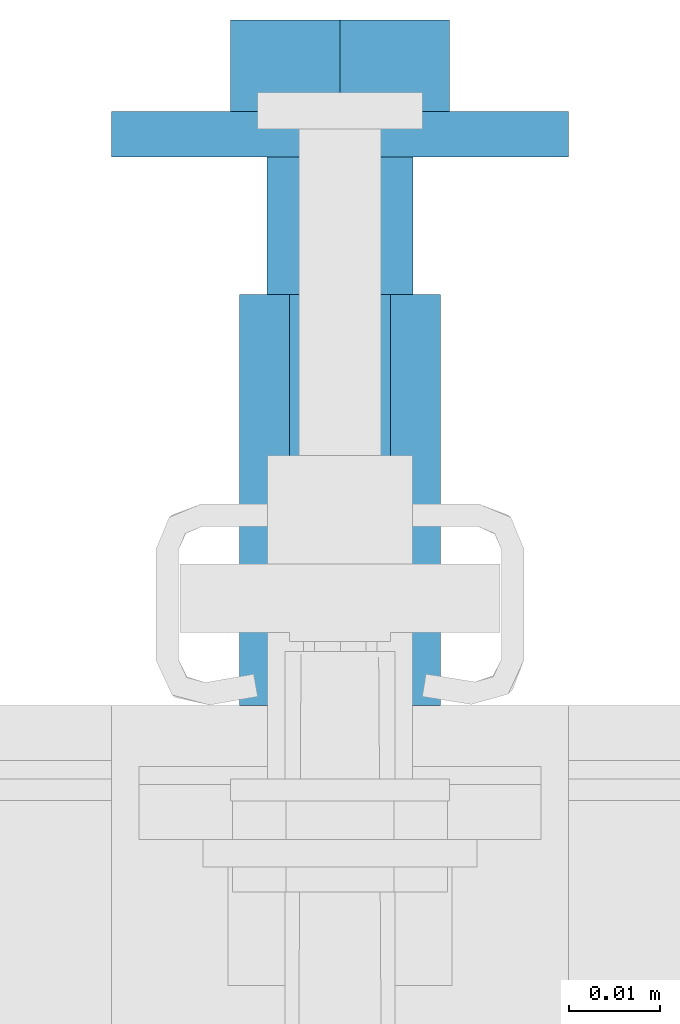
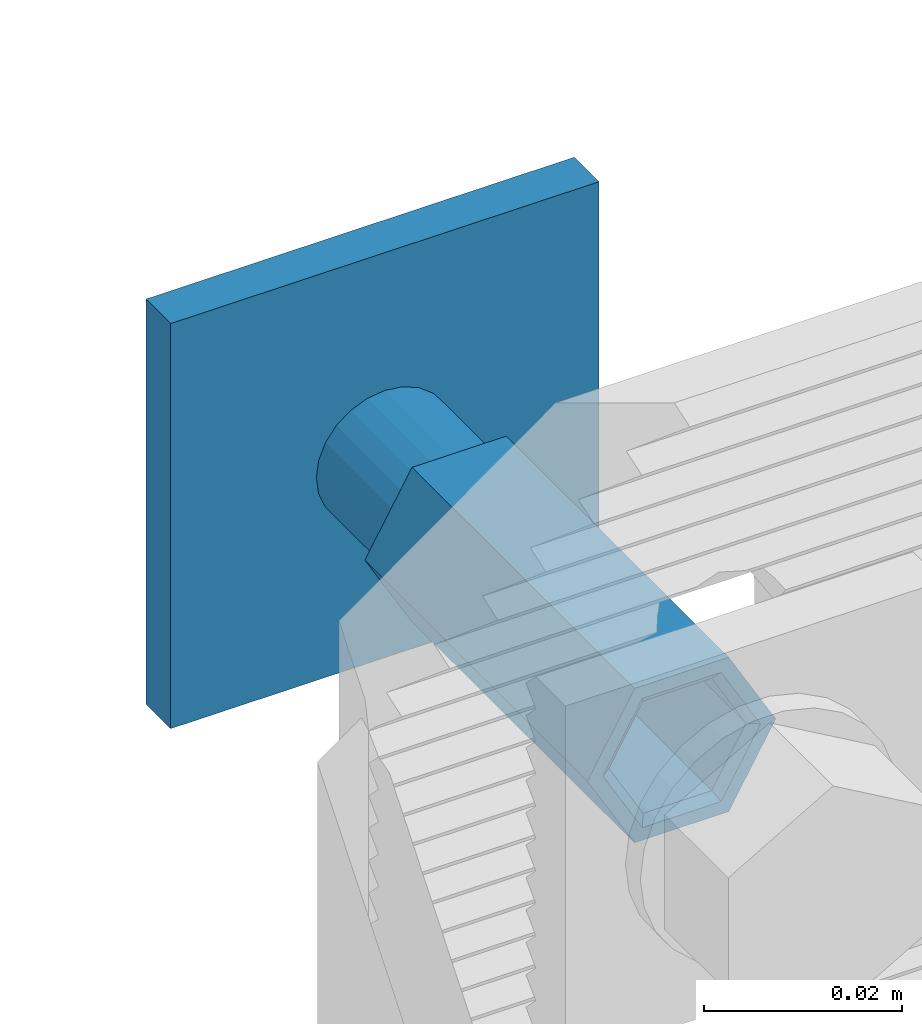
# One storey, part 3 of 7: 1 assembly.
"""IFC2X3 building model written with IfcOpenShell, lengths in metres."""

from ifc_helpers import new_model, entity, si_unit, converted_unit, derived_unit, direction, frame, origin, place, context, subcontext, project, spatial, faceted_brep, source, transform, mapped, material, type_object, type_shapes, element, save


model = new_model("IFC2X3")

# Units and contexts
model_context = context("Model", 3, precision=1e-05, world=origin(), true_north=direction((6.123031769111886e-17, 1.0)))
body_context = subcontext(model_context, "Body", "Model", "MODEL_VIEW")
ifc_project = project(units=[si_unit("LENGTHUNIT", "METRE"), si_unit("AREAUNIT", "SQUARE_METRE"), converted_unit("PLANEANGLEUNIT", "DEGREE", entity("IfcPlaneAngleMeasure", 0.017453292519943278), si_unit("PLANEANGLEUNIT", "RADIAN"), dimensions=[0, 0, 0, 0, 0, 0, 0]), si_unit("VOLUMEUNIT", "CUBIC_METRE"), derived_unit("THERMALTRANSMITTANCEUNIT", [(si_unit("MASSUNIT", "GRAM", prefix="KILO"), 1), (si_unit("THERMODYNAMICTEMPERATUREUNIT", "KELVIN"), -1), (si_unit("TIMEUNIT", "SECOND"), -3)]), derived_unit("USERDEFINED", [(si_unit("MASSUNIT", "GRAM", prefix="KILO"), 1), (si_unit("THERMODYNAMICTEMPERATUREUNIT", "KELVIN"), -1), (si_unit("TIMEUNIT", "SECOND"), -2)]), derived_unit("THERMALRESISTANCEUNIT", [(si_unit("MASSUNIT", "GRAM", prefix="KILO"), -1), (si_unit("TIMEUNIT", "SECOND"), 3), (si_unit("THERMODYNAMICTEMPERATUREUNIT", "KELVIN"), 1)]), derived_unit("MASSDENSITYUNIT", [(si_unit("MASSUNIT", "GRAM", prefix="KILO"), 1), (si_unit("LENGTHUNIT", "METRE"), -3)]), derived_unit("VAPORPERMEABILITYUNIT", [(si_unit("LENGTHUNIT", "METRE"), -1), (si_unit("TIMEUNIT", "SECOND"), 1)]), derived_unit("USERDEFINED", [(si_unit("MASSUNIT", "GRAM", prefix="KILO"), 1), (si_unit("TIMEUNIT", "SECOND"), -3), (si_unit("LENGTHUNIT", "METRE"), 3), (si_unit("ELECTRICCURRENTUNIT", "AMPERE"), -2)]), si_unit("PRESSUREUNIT", "PASCAL")], contexts=[model_context])

# Site, building, storey
site_placement = place(None, origin())
site = spatial("IfcSite", under=ifc_project, at=site_placement, Name="Default", CompositionType="ELEMENT")
building_placement = place(site_placement, origin())
building = spatial("IfcBuilding", under=site, at=building_placement, CompositionType="ELEMENT")
storey_placement = place(building_placement, origin())
storey = spatial("IfcBuildingStorey", under=building, at=storey_placement, Name="L0", CompositionType="ELEMENT", Elevation=0.0)

# Assembly
ifc_material = material(Name="REC_Acero, S 275JR (Zincado)")
type_product = type_object("IfcTypeProduct", Name="REC-HBP M16-75 EV:HBP M16-75 EV", material=ifc_material)
shared_shape = source(origin(), body_context, "Body", "Brep", [
    faceted_brep([(-0.010999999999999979, 0.0, 0.0), (-0.009199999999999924, 0.0, 0.0), (-0.005499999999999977, 0.009526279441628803, 0.0), (-0.005500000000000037, -0.009526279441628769, 0.0), (-0.004600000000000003, -0.007967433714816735, 0.0), (0.004599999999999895, -0.007967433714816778, 0.0), (0.005499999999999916, -0.009526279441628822, 0.0), (0.00919999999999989, 0.0, 0.0), (0.010999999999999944, 0.0, 0.0), (0.0054999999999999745, 0.009526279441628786, 0.0), (0.004599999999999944, 0.00796743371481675, 0.0), (-0.004599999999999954, 0.007967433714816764, 0.0), (0.0039999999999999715, 0.006928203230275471, -0.0008571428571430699), (0.007999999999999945, 0.0, -0.0008571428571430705), (-0.003999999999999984, 0.006928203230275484, -0.0008571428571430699), (-0.007999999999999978, 0.0, -0.0008571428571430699), (-0.004000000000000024, -0.006928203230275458, -0.0008571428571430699), (0.003999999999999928, -0.0069282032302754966, -0.0008571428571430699), (0.003999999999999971, 0.0069282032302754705, -0.04500000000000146), (0.007999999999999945, 0.0, -0.04500000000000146), (-0.003999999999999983, 0.006928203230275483, -0.04500000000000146), (-0.007999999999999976, 0.0, -0.04500000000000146), (-0.004000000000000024, -0.006928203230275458, -0.04500000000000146), (0.003999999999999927, -0.006928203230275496, -0.04500000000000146), (-0.005499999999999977, 0.009526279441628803, -0.04500000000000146), (-0.010999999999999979, 0.0, -0.04500000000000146), (0.0054999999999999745, 0.009526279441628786, -0.04500000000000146), (0.010999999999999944, 0.0, -0.04500000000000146), (0.005499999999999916, -0.009526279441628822, -0.04500000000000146), (-0.005500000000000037, -0.009526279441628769, -0.04500000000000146)], [[[0, 1, 2]], [[1, 0, 3]], [[3, 4, 1]], [[4, 3, 5]], [[6, 5, 3]], [[5, 6, 7]], [[8, 7, 6]], [[7, 8, 9]], [[10, 9, 2]], [[9, 10, 7]], [[11, 2, 1]], [[2, 11, 10]], [[7, 10, 12, 13]], [[10, 11, 14, 12]], [[11, 1, 15, 14]], [[1, 4, 16, 15]], [[4, 5, 17, 16]], [[5, 7, 13, 17]], [[13, 12, 18, 19]], [[12, 14, 20, 18]], [[14, 15, 21, 20]], [[15, 16, 22, 21]], [[16, 17, 23, 22]], [[17, 13, 19, 23]], [[24, 21, 25]], [[21, 24, 20]], [[18, 20, 24]], [[24, 26, 18]], [[19, 18, 26]], [[26, 27, 19]], [[28, 19, 27]], [[19, 28, 23]], [[29, 23, 28]], [[21, 22, 29]], [[23, 29, 22]], [[29, 25, 21]], [[27, 26, 9, 8]], [[26, 24, 2, 9]], [[24, 25, 0, 2]], [[25, 29, 3, 0]], [[29, 28, 6, 3]], [[28, 27, 8, 6]]]),
    faceted_brep([(0.007999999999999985, 0.0, -0.022500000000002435), (0.0077274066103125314, 0.002070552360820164, -0.022500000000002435), (0.006928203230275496, 0.003999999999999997, -0.022500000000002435), (0.005656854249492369, 0.005656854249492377, -0.022500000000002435), (0.0039999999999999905, 0.006928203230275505, -0.022500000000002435), (0.00207055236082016, 0.007727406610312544, -0.022500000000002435), (0.0, 0.008, -0.022500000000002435), (-0.0020705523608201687, 0.0077274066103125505, -0.022500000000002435), (-0.0040000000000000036, 0.006928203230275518, -0.022500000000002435), (-0.005656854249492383, 0.005656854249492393, -0.022500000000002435), (-0.006928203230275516, 0.004000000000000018, -0.022500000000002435), (-0.007727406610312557, 0.0020705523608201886, -0.022500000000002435), (-0.008000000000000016, 0.0, -0.022500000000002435), (-0.007727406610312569, -0.002070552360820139, -0.022500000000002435), (-0.006928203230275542, -0.003999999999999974, -0.022500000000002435), (-0.0056568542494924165, -0.005656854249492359, -0.022500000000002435), (-0.0040000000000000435, -0.006928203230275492, -0.022500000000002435), (-0.002070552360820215, -0.0077274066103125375, -0.022500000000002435), (0.0, -0.008, -0.022500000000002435), (0.0020705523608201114, -0.007727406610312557, -0.022500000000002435), (0.003999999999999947, -0.00692820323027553, -0.022500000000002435), (0.005656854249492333, -0.005656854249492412, -0.022500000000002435), (0.0069282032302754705, -0.004000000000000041, -0.022500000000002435), (0.007727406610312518, -0.002070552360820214, -0.022500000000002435), (0.0, 0.008, -0.060000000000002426), (0.00207055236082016, 0.007727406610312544, -0.060000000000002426), (0.0039999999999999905, 0.006928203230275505, -0.060000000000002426), (0.005656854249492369, 0.005656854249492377, -0.060000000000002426), (0.006928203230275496, 0.003999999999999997, -0.060000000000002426), (0.0077274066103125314, 0.002070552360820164, -0.060000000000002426), (0.007999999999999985, 0.0, -0.060000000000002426), (0.007727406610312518, -0.002070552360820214, -0.060000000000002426), (0.0069282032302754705, -0.004000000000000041, -0.060000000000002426), (0.005656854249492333, -0.005656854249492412, -0.060000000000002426), (0.003999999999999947, -0.00692820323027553, -0.060000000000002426), (0.0020705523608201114, -0.007727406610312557, -0.060000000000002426), (0.0, -0.008, -0.060000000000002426), (-0.002070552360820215, -0.0077274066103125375, -0.060000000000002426), (-0.0040000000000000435, -0.006928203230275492, -0.060000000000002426), (-0.0056568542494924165, -0.005656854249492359, -0.060000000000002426), (-0.006928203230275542, -0.003999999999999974, -0.060000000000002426), (-0.007727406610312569, -0.002070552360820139, -0.060000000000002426), (-0.008000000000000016, 0.0, -0.060000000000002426), (-0.007727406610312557, 0.0020705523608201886, -0.060000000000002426), (-0.006928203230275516, 0.004000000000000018, -0.060000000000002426), (-0.005656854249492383, 0.005656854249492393, -0.060000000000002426), (-0.0040000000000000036, 0.006928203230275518, -0.060000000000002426), (-0.0020705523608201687, 0.0077274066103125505, -0.060000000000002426)], [[[0, 1, 2, 3, 4, 5, 6, 7, 8, 9, 10, 11, 12, 13, 14, 15, 16, 17, 18, 19, 20, 21, 22, 23]], [[24, 25, 26, 27, 28, 29, 30, 31, 32, 33, 34, 35, 36, 37, 38, 39, 40, 41, 42, 43, 44, 45, 46, 47]], [[41, 13, 12, 42]], [[40, 14, 13, 41]], [[16, 15, 39, 38]], [[40, 39, 15, 14]], [[17, 16, 38, 37]], [[18, 17, 37, 36]], [[35, 19, 18, 36]], [[34, 20, 19, 35]], [[22, 21, 33, 32]], [[34, 33, 21, 20]], [[23, 22, 32, 31]], [[0, 23, 31, 30]], [[29, 1, 0, 30]], [[28, 2, 1, 29]], [[4, 3, 27, 26]], [[28, 27, 3, 2]], [[5, 4, 26, 25]], [[6, 5, 25, 24]], [[47, 7, 6, 24]], [[46, 8, 7, 47]], [[10, 9, 45, 44]], [[46, 45, 9, 8]], [[11, 10, 44, 43]], [[12, 11, 43, 42]]]),
    faceted_brep([(0.02499999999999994, 0.025000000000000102, -0.060000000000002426), (-0.024999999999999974, 0.025000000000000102, -0.060000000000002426), (-0.024999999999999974, -0.025000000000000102, -0.060000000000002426), (0.02499999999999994, -0.025000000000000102, -0.060000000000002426), (0.02499999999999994, 0.025000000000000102, -0.06500000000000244), (0.02499999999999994, -0.025000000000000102, -0.06500000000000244), (-0.024999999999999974, -0.025000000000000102, -0.06500000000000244), (-0.024999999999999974, 0.025000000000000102, -0.06500000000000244)], [[[0, 1, 2, 3]], [[4, 5, 6, 7]], [[1, 0, 4, 7]], [[2, 1, 7, 6]], [[3, 2, 6, 5]], [[0, 3, 5, 4]]]),
    faceted_brep([(-0.011999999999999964, 0.00692820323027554, -0.06500000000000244), (-0.011999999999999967, -0.006928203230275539, -0.06500000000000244), (0.0, -0.013856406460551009, -0.06500000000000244), (0.011999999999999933, -0.00692820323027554, -0.06500000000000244), (0.011999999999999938, 0.00692820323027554, -0.06500000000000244), (0.0, 0.01385640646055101, -0.06500000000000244), (-0.011999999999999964, 0.00692820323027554, -0.07500000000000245), (0.0, 0.01385640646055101, -0.07500000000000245), (0.011999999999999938, 0.00692820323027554, -0.07500000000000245), (0.011999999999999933, -0.00692820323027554, -0.07500000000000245), (0.0, -0.013856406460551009, -0.07500000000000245), (-0.011999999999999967, -0.00692820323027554, -0.07500000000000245)], [[[0, 1, 2, 3, 4, 5]], [[6, 7, 8, 9, 10, 11]], [[1, 0, 6, 11]], [[2, 1, 11, 10]], [[3, 2, 10, 9]], [[4, 3, 9, 8]], [[5, 4, 8, 7]], [[0, 5, 7, 6]]]),
])
type_shapes(type_product, [shared_shape])
assembly_placement = place(storey_placement, frame((5.487720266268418, 15.954530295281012, 0.07200000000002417), z_axis=(0.0, -1.0, 0.0), x_axis=(1.0, 0.0, 0.0)))
element("IfcElementAssembly", 1, at=assembly_placement, inside=storey, type_object=type_product, material=ifc_material, Name="REC-HBP M16-75 EV:HBP M16-75 EV", ObjectType="REC-HBP M16-75 EV:HBP M16-75 EV", AssemblyPlace="NOTDEFINED", PredefinedType="NOTDEFINED", context=body_context, shape_type="MappedRepresentation", body=[
    mapped(shared_shape, transform((0.0, 0.0, 0.0), scale=1.0)),
])

save(model, "model.ifc")
